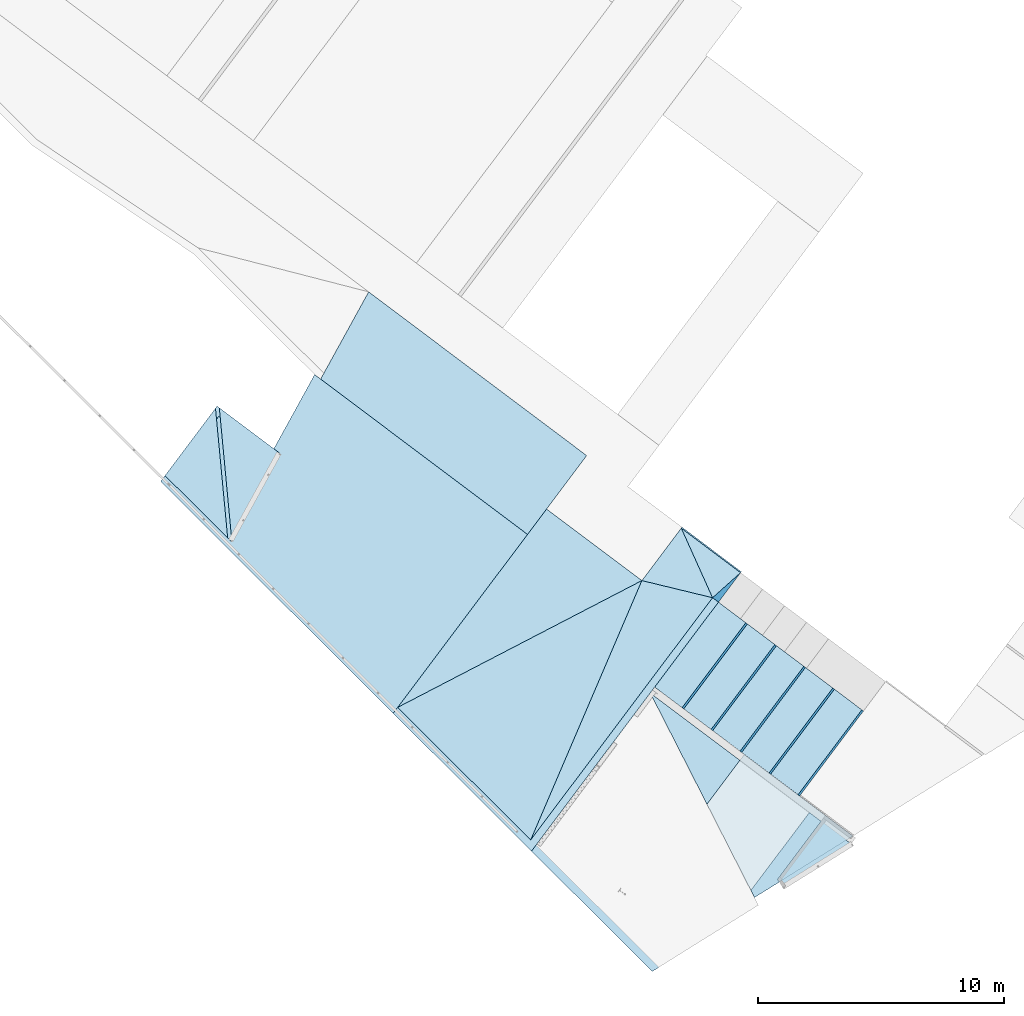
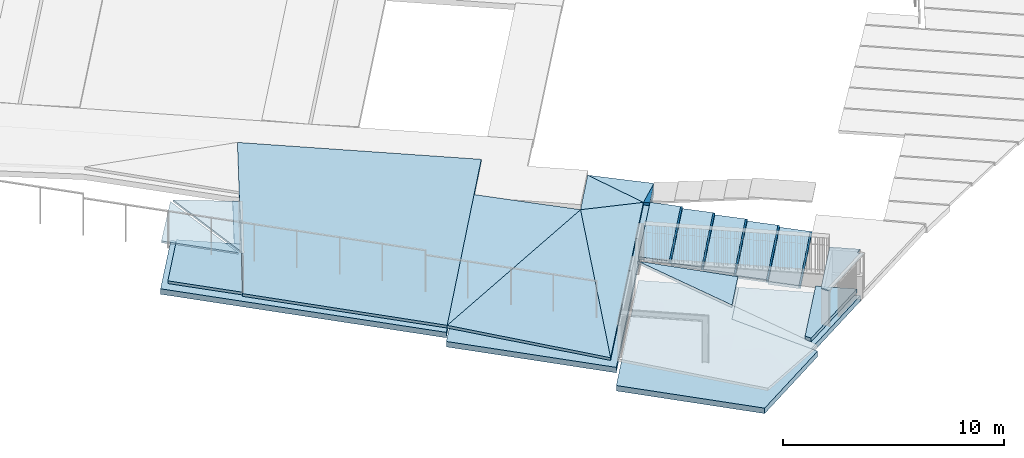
# One storey, part 19 of 33: 27 slabs, 4 elements without a shape of their own.
"""IFC2X3 building model written with IfcOpenShell, lengths in metres."""

from ifc_helpers import new_model, entity, si_unit, converted_unit, derived_unit, direction, frame, frame_2d, origin, place, context, subcontext, project, spatial, polyline, rectangle, outline, extrude, clip, halfspace, material, layer, layer_set, layer_usage, type_object, element, aggregate, save


model = new_model("IFC2X3")

# Units and contexts
model_context = context("Model", 3, precision=1e-05, world=origin(), true_north=direction((6.123031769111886e-17, 1.0)))
body_context = subcontext(model_context, "Body", "Model", "MODEL_VIEW")
ifc_project = project(units=[si_unit("LENGTHUNIT", "METRE"), si_unit("AREAUNIT", "SQUARE_METRE"), si_unit("VOLUMEUNIT", "CUBIC_METRE"), converted_unit("PLANEANGLEUNIT", "DEGREE", entity("IfcRatioMeasure", 0.017453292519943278), si_unit("PLANEANGLEUNIT", "RADIAN"), dimensions=[0, 0, 0, 0, 0, 0, 0]), si_unit("MASSUNIT", "GRAM", prefix="KILO"), derived_unit("MASSDENSITYUNIT", [(si_unit("MASSUNIT", "GRAM", prefix="KILO"), 1), (si_unit("LENGTHUNIT", "METRE"), -3)]), derived_unit("IONCONCENTRATIONUNIT", [(si_unit("MASSUNIT", "GRAM", prefix="KILO"), 1), (si_unit("LENGTHUNIT", "METRE"), -3)]), derived_unit("MOMENTOFINERTIAUNIT", [(si_unit("LENGTHUNIT", "METRE"), 4)]), si_unit("TIMEUNIT", "SECOND"), si_unit("FREQUENCYUNIT", "HERTZ"), si_unit("THERMODYNAMICTEMPERATUREUNIT", "DEGREE_CELSIUS"), derived_unit("THERMALTRANSMITTANCEUNIT", [(si_unit("MASSUNIT", "GRAM", prefix="KILO"), 1), (si_unit("THERMODYNAMICTEMPERATUREUNIT", "KELVIN"), -1), (si_unit("TIMEUNIT", "SECOND"), -3)]), derived_unit("THERMALCONDUCTANCEUNIT", [(si_unit("MASSUNIT", "GRAM", prefix="KILO"), 1), (si_unit("THERMODYNAMICTEMPERATUREUNIT", "KELVIN"), -1), (si_unit("TIMEUNIT", "SECOND"), -3), (si_unit("LENGTHUNIT", "METRE"), 1)]), derived_unit("VOLUMETRICFLOWRATEUNIT", [(si_unit("LENGTHUNIT", "METRE"), 3), (si_unit("TIMEUNIT", "SECOND"), -1)]), derived_unit("MASSFLOWRATEUNIT", [(si_unit("MASSUNIT", "GRAM", prefix="KILO"), 1), (si_unit("TIMEUNIT", "SECOND"), -1)]), derived_unit("ROTATIONALFREQUENCYUNIT", [(si_unit("TIMEUNIT", "SECOND"), -1)]), si_unit("ELECTRICCURRENTUNIT", "AMPERE"), si_unit("ELECTRICVOLTAGEUNIT", "VOLT"), si_unit("POWERUNIT", "WATT"), si_unit("FORCEUNIT", "NEWTON", prefix="KILO"), si_unit("ILLUMINANCEUNIT", "LUX"), si_unit("LUMINOUSFLUXUNIT", "LUMEN"), si_unit("LUMINOUSINTENSITYUNIT", "CANDELA"), derived_unit("USERDEFINED", [(si_unit("MASSUNIT", "GRAM", prefix="KILO"), -1), (si_unit("LENGTHUNIT", "METRE"), -2), (si_unit("TIMEUNIT", "SECOND"), 3), (si_unit("LUMINOUSFLUXUNIT", "LUMEN"), 1)]), derived_unit("USERDEFINED", [(si_unit("MASSUNIT", "GRAM", prefix="KILO"), 1), (si_unit("TIMEUNIT", "SECOND"), -3), (si_unit("LENGTHUNIT", "METRE"), 3), (si_unit("ELECTRICCURRENTUNIT", "AMPERE"), -2)]), derived_unit("SOUNDPOWERUNIT", [(si_unit("MASSUNIT", "GRAM", prefix="KILO"), 1), (si_unit("TIMEUNIT", "SECOND"), -3), (si_unit("LENGTHUNIT", "METRE"), 2)]), derived_unit("SOUNDPRESSUREUNIT", [(si_unit("MASSUNIT", "GRAM", prefix="KILO"), 1), (si_unit("LENGTHUNIT", "METRE"), -1), (si_unit("TIMEUNIT", "SECOND"), -2)]), derived_unit("LINEARVELOCITYUNIT", [(si_unit("LENGTHUNIT", "METRE"), 1), (si_unit("TIMEUNIT", "SECOND"), -1)]), si_unit("PRESSUREUNIT", "PASCAL"), derived_unit("USERDEFINED", [(si_unit("MASSUNIT", "GRAM", prefix="KILO"), 1), (si_unit("LENGTHUNIT", "METRE"), -2), (si_unit("TIMEUNIT", "SECOND"), -2)]), derived_unit("LINEARFORCEUNIT", [(si_unit("MASSUNIT", "GRAM", prefix="KILO"), 1), (si_unit("TIMEUNIT", "SECOND"), -2)]), derived_unit("PLANARFORCEUNIT", [(si_unit("MASSUNIT", "GRAM", prefix="KILO"), 1), (si_unit("LENGTHUNIT", "METRE"), -1), (si_unit("TIMEUNIT", "SECOND"), -2)]), derived_unit("SPECIFICHEATCAPACITYUNIT", [(si_unit("THERMODYNAMICTEMPERATUREUNIT", "KELVIN"), -1), (si_unit("LENGTHUNIT", "METRE"), 2), (si_unit("TIMEUNIT", "SECOND"), -2)]), derived_unit("HEATINGVALUEUNIT", [(si_unit("LENGTHUNIT", "METRE"), 2), (si_unit("TIMEUNIT", "SECOND"), -2)]), derived_unit("VAPORPERMEABILITYUNIT", [(si_unit("LENGTHUNIT", "METRE"), -1), (si_unit("TIMEUNIT", "SECOND"), 1)]), derived_unit("DYNAMICVISCOSITYUNIT", [(si_unit("MASSUNIT", "GRAM", prefix="KILO"), 1), (si_unit("TIMEUNIT", "SECOND"), -1), (si_unit("LENGTHUNIT", "METRE"), -1)]), derived_unit("THERMALEXPANSIONCOEFFICIENTUNIT", [(si_unit("THERMODYNAMICTEMPERATUREUNIT", "KELVIN"), -1)]), derived_unit("MODULUSOFELASTICITYUNIT", [(si_unit("MASSUNIT", "GRAM", prefix="KILO"), 1), (si_unit("LENGTHUNIT", "METRE"), -1), (si_unit("TIMEUNIT", "SECOND"), -2)]), derived_unit("ISOTHERMALMOISTURECAPACITYUNIT", [(si_unit("LENGTHUNIT", "METRE"), 3), (si_unit("MASSUNIT", "GRAM", prefix="KILO"), -1)]), derived_unit("MOISTUREDIFFUSIVITYUNIT", [(si_unit("TIMEUNIT", "SECOND"), -1), (si_unit("LENGTHUNIT", "METRE"), 2)])], contexts=[model_context])

# Site, building, storey
site_placement = place(None, origin())
site = spatial("IfcSite", under=ifc_project, at=site_placement, Name="Superficie", CompositionType="ELEMENT")
building_placement = place(site_placement, frame((0.0, 0.0, 235.0), z_axis=(0.0, 0.0, 1.0), x_axis=(-0.7996477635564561, 0.6004693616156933, 0.0)))
building = spatial("IfcBuilding", under=site, at=building_placement, CompositionType="ELEMENT")
storey_placement = place(building_placement, origin())
storey = spatial("IfcBuildingStorey", under=building, at=storey_placement, Name="P0- Escola", CompositionType="ELEMENT", Elevation=0.0)

# Slabs
ifc_material_1 = material(Name="_Topografia- Plataformes")
ifc_layer_1 = layer(ifc_material_1, 0.29999999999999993)
ifc_layer_set_1 = layer_set([ifc_layer_1], Name="Plataforma:300 mm")
ifc_layer_usage_1 = layer_usage(ifc_layer_set_1, "AXIS3", "POSITIVE", 0.0)
slab_type_1 = type_object("IfcSlabType", Name="Plataforma:300 mm", PredefinedType="FLOOR", material=ifc_layer_set_1)
slab_1_placement = place(storey_placement, origin())
element("IfcSlab", 1, at=slab_1_placement, inside=storey, type_object=slab_type_1, material=ifc_layer_usage_1, Name="Plataforma:300 mm", ObjectType="Plataforma:300 mm", PredefinedType="FLOOR", context=body_context, shape_type="SweptSolid", body=[
    extrude(outline(polyline([(-2.744072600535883, -4.240309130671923), (7.655439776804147, -4.240309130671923), (8.760847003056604, 3.6301545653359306), (-5.4640707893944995, 3.6301545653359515), (-5.4640707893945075, 0.6101545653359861), (-2.7440726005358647, 0.6101545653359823), (-2.744072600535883, -4.240309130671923)])), frame((13.855302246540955, -12.57611915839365, -1.2999999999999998), z_axis=(0.0, 0.0, 1.0), x_axis=(0.0, 1.0, 0.0)), (0.0, 0.0, 1.0), 0.2999999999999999),
])
slab_2_placement = place(storey_placement, origin())
element("IfcSlab", 2, at=slab_2_placement, inside=storey, type_object=slab_type_1, material=ifc_layer_usage_1, Name="Plataforma:300 mm", ObjectType="Plataforma:300 mm", PredefinedType="FLOOR", context=body_context, shape_type="SweptSolid", body=[
    extrude(outline(polyline([(1.5932996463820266, -0.4453937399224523), (4.1268821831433, -0.4453937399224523), (4.126882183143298, 4.117606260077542), (-4.223037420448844, 4.117606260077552), (-5.188081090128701, -2.7534734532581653), (-0.4359455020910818, -4.590951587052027), (1.5932996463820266, -0.4453937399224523)])), frame((6.107541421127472, -8.03830957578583, -2.3), z_axis=(0.0, 0.0, 1.0), x_axis=(0.0, -1.0, 0.0)), (0.0, 0.0, 1.0), 0.30000000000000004),
])
slab_3_placement = place(storey_placement, origin())
element("IfcSlab", 3, at=slab_3_placement, inside=storey, type_object=slab_type_1, material=ifc_layer_usage_1, Name="Plataforma:300 mm", ObjectType="Plataforma:300 mm", PredefinedType="FLOOR", context=body_context, shape_type="SweptSolid", body=[
    extrude(outline(polyline([(-1.7354915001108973, -2.341166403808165), (0.7980910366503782, -2.341166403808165), (2.672891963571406, 1.4888763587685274), (-1.7354915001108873, 3.1934564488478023), (-1.7354915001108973, -2.341166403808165)])), frame((3.3209812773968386, -10.429700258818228, -2.3), z_axis=(0.0, 0.0, 1.0), x_axis=(0.0, 1.0, 0.0)), (0.0, 0.0, 1.0), 0.30000000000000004),
])
slab_4_placement = place(storey_placement, origin())
element("IfcSlab", 4, at=slab_4_placement, inside=storey, type_object=slab_type_1, material=ifc_layer_usage_1, Name="Plataforma:300 mm", ObjectType="Plataforma:300 mm", PredefinedType="FLOOR", context=body_context, shape_type="SweptSolid", body=[
    extrude(outline(polyline([(-4.771737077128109, -4.087468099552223), (8.595939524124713, -4.087468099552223), (7.329425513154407, 4.93007069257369), (-3.401077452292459, 3.4229707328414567), (-2.447421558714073, 0.11162999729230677), (-5.305128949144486, -0.28973522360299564), (-4.771737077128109, -4.087468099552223)])), frame((26.039496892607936, -10.163985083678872, -0.7999999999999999), z_axis=(0.0, 0.0, 1.0), x_axis=(-0.9902804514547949, 0.13908496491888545, 0.0)), (0.0, 0.0, 1.0), 0.29999999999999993),
])
ifc_material_2 = material(Name="_Formigó- Solera- T1- STR")
ifc_layer_2 = layer(ifc_material_2, 0.14999999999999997)
ifc_layer_set_2 = layer_set([ifc_layer_2], Name="Suelo:STR- L- Formigó- Solera- T1- 15 cm")
ifc_layer_usage_2 = layer_usage(ifc_layer_set_2, "AXIS3", "POSITIVE", 0.0)
slab_type_2 = type_object("IfcSlabType", Name="Suelo:STR- L- Formigó- Solera- T1- 15 cm", PredefinedType="FLOOR", material=ifc_layer_set_2)
slab_5_placement = place(storey_placement, origin())
element("IfcSlab", 5, at=slab_5_placement, inside=storey, type_object=slab_type_2, material=ifc_layer_usage_2, Name="Suelo:STR- L- Formigó- Solera- T1- 15 cm", ObjectType="Suelo:STR- L- Formigó- Solera- T1- 15 cm", PredefinedType="FLOOR", context=body_context, shape_type="SweptSolid", body=[
    clip(clip(extrude(rectangle(XDim=0.08025559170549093, YDim=4.325, at=frame_2d((6.661338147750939e-15, 2.7096380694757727e-15), x_axis=(0.0, 1.0))), frame((2.885147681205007, -14.32769175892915, -1.6947999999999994), z_axis=(0.07974522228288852, 0.0, -0.9968152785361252), x_axis=(0.0, 1.0, 0.0)), (0.0, -0.07974522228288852, 0.9968152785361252), 0.15095999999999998), halfspace(frame((2.8451476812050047, -16.490191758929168, -1.8484792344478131), z_axis=(0.07974522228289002, 0.0, -0.9968152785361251), x_axis=(-0.9968152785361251, 0.0, -0.07974522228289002)), False)), halfspace(frame((2.8451476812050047, -16.490191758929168, -1.6979999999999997), z_axis=(-0.07974522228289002, 0.0, 0.9968152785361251), x_axis=(0.9968152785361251, 0.0, 0.07974522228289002)), False)),
])
slab_6_placement = place(storey_placement, origin())
element("IfcSlab", 6, at=slab_6_placement, inside=storey, type_object=slab_type_2, material=ifc_layer_usage_2, Name="Suelo:STR- L- Formigó- Solera- T1- 15 cm", ObjectType="Suelo:STR- L- Formigó- Solera- T1- 15 cm", PredefinedType="FLOOR", context=body_context, shape_type="SweptSolid", body=[
    clip(clip(extrude(rectangle(XDim=0.08025559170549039, YDim=4.325000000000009, at=frame_2d((0.0, 2.706168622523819e-16), x_axis=(0.0, 1.0))), frame((4.36114768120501, -14.327691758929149, -1.4747199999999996), z_axis=(0.07974522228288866, 0.0, -0.9968152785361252), x_axis=(0.0, 1.0, 0.0)), (0.0, -0.07974522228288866, 0.9968152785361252), 0.15095999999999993), halfspace(frame((4.321147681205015, -16.490191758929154, -1.6283992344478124), z_axis=(0.07974522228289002, 0.0, -0.9968152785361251), x_axis=(-0.9968152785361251, 0.0, -0.07974522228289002)), False)), halfspace(frame((4.321147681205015, -16.490191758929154, -1.4779199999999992), z_axis=(-0.07974522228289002, 0.0, 0.9968152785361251), x_axis=(0.9968152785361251, 0.0, 0.07974522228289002)), False)),
])
slab_7_placement = place(storey_placement, origin())
element("IfcSlab", 7, at=slab_7_placement, inside=storey, type_object=slab_type_2, material=ifc_layer_usage_2, Name="Suelo:STR- L- Formigó- Solera- T1- 15 cm", ObjectType="Suelo:STR- L- Formigó- Solera- T1- 15 cm", PredefinedType="FLOOR", context=body_context, shape_type="SweptSolid", body=[
    clip(clip(extrude(rectangle(XDim=0.08025559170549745, YDim=4.325000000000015, at=frame_2d((8.881784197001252e-16, 1.078998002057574e-15), x_axis=(0.0, 1.0))), frame((5.837147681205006, -14.327691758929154, -1.2546399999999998), z_axis=(0.07974522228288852, 0.0, -0.9968152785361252), x_axis=(0.0, 1.0, 0.0)), (0.0, -0.07974522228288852, 0.9968152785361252), 0.15096000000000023), halfspace(frame((5.797147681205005, -16.49019175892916, -1.4083192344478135), z_axis=(0.07974522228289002, 0.0, -0.9968152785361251), x_axis=(-0.9968152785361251, 0.0, -0.07974522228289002)), False)), halfspace(frame((5.797147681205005, -16.49019175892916, -1.2578399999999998), z_axis=(-0.07974522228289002, 0.0, 0.9968152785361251), x_axis=(0.9968152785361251, 0.0, 0.07974522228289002)), False)),
])
slab_8_placement = place(storey_placement, origin())
element("IfcSlab", 8, at=slab_8_placement, inside=storey, type_object=slab_type_2, material=ifc_layer_usage_2, Name="Suelo:STR- L- Formigó- Solera- T1- 15 cm", ObjectType="Suelo:STR- L- Formigó- Solera- T1- 15 cm", PredefinedType="FLOOR", context=body_context, shape_type="SweptSolid", body=[
    clip(clip(extrude(rectangle(XDim=0.08025559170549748, YDim=4.325000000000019, at=frame_2d((1.1102230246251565e-15, 0.0), x_axis=(0.0, 1.0))), frame((7.313147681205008, -14.327691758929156, -1.03456), z_axis=(0.07974522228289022, 0.0, -0.9968152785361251), x_axis=(0.0, 1.0, 0.0)), (0.0, -0.07974522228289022, 0.9968152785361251), 0.15096), halfspace(frame((7.273147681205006, -16.490191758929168, -1.1882392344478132), z_axis=(0.07974522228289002, 0.0, -0.9968152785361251), x_axis=(-0.9968152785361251, 0.0, -0.07974522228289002)), False)), halfspace(frame((7.273147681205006, -16.490191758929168, -1.0377599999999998), z_axis=(-0.07974522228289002, 0.0, 0.9968152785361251), x_axis=(0.9968152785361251, 0.0, 0.07974522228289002)), False)),
])
slab_9_placement = place(storey_placement, origin())
element("IfcSlab", 9, at=slab_9_placement, inside=storey, type_object=slab_type_2, material=ifc_layer_usage_2, Name="Suelo:STR- L- Formigó- Solera- T1- 15 cm", ObjectType="Suelo:STR- L- Formigó- Solera- T1- 15 cm", PredefinedType="FLOOR", context=body_context, shape_type="SweptSolid", body=[
    clip(clip(extrude(rectangle(XDim=0.08025559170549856, YDim=4.325000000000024, at=frame_2d((1.1102230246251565e-15, 5.412337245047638e-16), x_axis=(0.0, 1.0))), frame((8.789147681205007, -14.327691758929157, -0.8144800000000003), z_axis=(0.07974522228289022, 0.0, -0.9968152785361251), x_axis=(0.0, 1.0, 0.0)), (0.0, -0.07974522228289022, 0.9968152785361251), 0.15096000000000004), halfspace(frame((8.749147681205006, -16.490191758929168, -0.9681592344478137), z_axis=(0.07974522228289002, 0.0, -0.9968152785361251), x_axis=(-0.9968152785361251, 0.0, -0.07974522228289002)), False)), halfspace(frame((8.749147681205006, -16.490191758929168, -0.8176800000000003), z_axis=(-0.07974522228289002, 0.0, 0.9968152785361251), x_axis=(0.9968152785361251, 0.0, 0.07974522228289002)), False)),
])
slab_10_placement = place(storey_placement, origin())
element("IfcSlab", 10, at=slab_10_placement, inside=storey, type_object=slab_type_2, material=ifc_layer_usage_2, Name="Suelo:STR- L- Formigó- Solera- T1- 15 cm", ObjectType="Suelo:STR- L- Formigó- Solera- T1- 15 cm", PredefinedType="FLOOR", context=body_context, shape_type="SweptSolid", body=[
    clip(clip(extrude(outline(polyline([(-0.7434800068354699, -1.529219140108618), (1.4901529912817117, -1.5292191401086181), (-0.7466729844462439, 3.058438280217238), (-0.7434800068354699, -1.529219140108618)])), frame((7.183147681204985, -11.120664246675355, -1.0516831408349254), z_axis=(0.1035401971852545, -0.00668567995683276, -0.9946027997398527), x_axis=(0.0, 0.9999774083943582, -0.006721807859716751)), (0.006721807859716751, -0.10353785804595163, 0.9946027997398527), 0.1508139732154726), halfspace(frame((7.183147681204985, -11.120664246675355, -1.2016831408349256), z_axis=(0.10354019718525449, -0.006685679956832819, -0.9946027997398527), x_axis=(0.0, -0.9999774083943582, 0.0067218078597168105)), False)), halfspace(frame((7.183147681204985, -11.120664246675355, -1.0516831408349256), z_axis=(-0.10354019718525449, 0.006685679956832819, 0.9946027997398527), x_axis=(0.0, -0.9999774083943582, 0.0067218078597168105)), False)),
])
slab_11_placement = place(storey_placement, origin())
element("IfcSlab", 11, at=slab_11_placement, inside=storey, type_object=slab_type_2, material=ifc_layer_usage_2, Name="Suelo:STR- L- Formigó- Solera- T1- 15 cm", ObjectType="Suelo:STR- L- Formigó- Solera- T1- 15 cm", PredefinedType="FLOOR", context=body_context, shape_type="SweptSolid", body=[
    extrude(outline(polyline([(-1.5989874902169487, -1.758729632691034), (1.3323239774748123, -1.758729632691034), (1.8656510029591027, 2.0020340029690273), (-1.5989874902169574, 1.515425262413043), (-1.5989874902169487, -1.758729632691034)])), frame((29.434372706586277, -8.560503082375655, -0.22060427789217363), z_axis=(0.0, 0.0, -1.0), x_axis=(-1.0, 0.0, 0.0)), (0.0, 0.0, 1.0), 0.14999999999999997),
])
ifc_layer_3 = layer(ifc_material_2, 0.2)
ifc_layer_set_3 = layer_set([ifc_layer_3], Name="Suelo:STR- L- Formigó- Solera- T1- 20 cm")
ifc_layer_usage_3 = layer_usage(ifc_layer_set_3, "AXIS3", "POSITIVE", 0.0)
slab_type_3 = type_object("IfcSlabType", Name="Suelo:STR- L- Formigó- Solera- T1- 20 cm", PredefinedType="FLOOR", material=ifc_layer_set_3)
slab_12_placement = place(storey_placement, origin())
element("IfcSlab", 12, at=slab_12_placement, inside=storey, type_object=slab_type_3, material=ifc_layer_usage_3, Name="Suelo:STR- L- Formigó- Solera- T1- 20 cm", ObjectType="Suelo:STR- L- Formigó- Solera- T1- 20 cm", PredefinedType="FLOOR", context=body_context, shape_type="SweptSolid", body=[
    extrude(outline(polyline([(-0.5435675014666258, -2.0183549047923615), (1.3378573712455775, -2.0183549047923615), (-0.25072236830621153, 2.090028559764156), (-0.5435675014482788, 1.9466812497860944), (-0.5435675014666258, -2.0183549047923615)])), frame((1.5813825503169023, -9.846836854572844, -1.425000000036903), z_axis=(0.0, -2.0787634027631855e-05, -1.0), x_axis=(-1.0, 0.0, 0.0)), (0.0, 2.0787634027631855e-05, 1.0), 0.20000000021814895),
])
ifc_material_3 = material(Name="_Saulo T1- PAV")
ifc_layer_4 = layer(ifc_material_3, 0.14999999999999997)
ifc_layer_set_4 = layer_set([ifc_layer_4], Name="Suelo:PAV- Saulo- 15 cm- T1")
ifc_layer_usage_4 = layer_usage(ifc_layer_set_4, "AXIS3", "POSITIVE", 0.0)
slab_type_4 = type_object("IfcSlabType", Name="Suelo:PAV- Saulo- 15 cm- T1", PredefinedType="FLOOR", material=ifc_layer_set_4)
slab_13_placement = place(storey_placement, origin())
element("IfcSlab", 13, at=slab_13_placement, inside=storey, type_object=slab_type_4, material=ifc_layer_usage_4, Name="Suelo:PAV- Saulo- 15 cm- T1", ObjectType="Suelo:PAV- Saulo- 15 cm- T1", PredefinedType="FLOOR", context=body_context, shape_type="SweptSolid", body=[
    clip(clip(extrude(rectangle(XDim=1.4004600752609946, YDim=4.325000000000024, at=frame_2d((-5.329070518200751e-15, -2.4424906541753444e-15), x_axis=(0.0, 1.0))), frame((3.623147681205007, -14.32769175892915, -1.6357599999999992), z_axis=(0.07974522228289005, 0.0, -0.9968152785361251), x_axis=(0.0, 1.0, 0.0)), (0.0, -0.07974522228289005, 0.9968152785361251), 0.15095999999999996), halfspace(frame((4.321147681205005, -16.490191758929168, -1.7303992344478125), z_axis=(0.07974522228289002, 0.0, -0.9968152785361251), x_axis=(0.9968152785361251, 0.0, 0.07974522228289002)), False)), halfspace(frame((4.321147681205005, -16.490191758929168, -1.5799199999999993), z_axis=(-0.07974522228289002, 0.0, 0.9968152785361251), x_axis=(-0.9968152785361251, 0.0, -0.07974522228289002)), False)),
])
slab_14_placement = place(storey_placement, origin())
element("IfcSlab", 14, at=slab_14_placement, inside=storey, type_object=slab_type_4, material=ifc_layer_usage_4, Name="Suelo:PAV- Saulo- 15 cm- T1", ObjectType="Suelo:PAV- Saulo- 15 cm- T1", PredefinedType="FLOOR", context=body_context, shape_type="SweptSolid", body=[
    clip(clip(extrude(rectangle(XDim=1.400460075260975, YDim=4.325000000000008, at=frame_2d((4.218847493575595e-15, 1.609823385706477e-15), x_axis=(0.0, 1.0))), frame((5.099147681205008, -14.327691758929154, -1.4156799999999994), z_axis=(0.07974522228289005, 0.0, -0.9968152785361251), x_axis=(0.0, 1.0, 0.0)), (0.0, -0.07974522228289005, 0.9968152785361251), 0.15095999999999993), halfspace(frame((4.401147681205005, -16.490191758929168, -1.6219992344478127), z_axis=(0.07974522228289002, 0.0, -0.9968152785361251), x_axis=(-0.9968152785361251, 0.0, -0.07974522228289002)), False)), halfspace(frame((4.401147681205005, -16.490191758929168, -1.4715199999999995), z_axis=(-0.07974522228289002, 0.0, 0.9968152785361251), x_axis=(0.9968152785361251, 0.0, 0.07974522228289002)), False)),
])
slab_15_placement = place(storey_placement, origin())
element("IfcSlab", 15, at=slab_15_placement, inside=storey, type_object=slab_type_4, material=ifc_layer_usage_4, Name="Suelo:PAV- Saulo- 15 cm- T1", ObjectType="Suelo:PAV- Saulo- 15 cm- T1", PredefinedType="FLOOR", context=body_context, shape_type="SweptSolid", body=[
    clip(clip(extrude(rectangle(XDim=1.4004600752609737, YDim=4.325000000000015, at=frame_2d((3.3306690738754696e-15, 2.1649348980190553e-15), x_axis=(0.0, 1.0))), frame((6.575147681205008, -14.327691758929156, -1.1955999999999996), z_axis=(0.07974522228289, 0.0, -0.9968152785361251), x_axis=(0.0, 1.0, 0.0)), (0.0, -0.07974522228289, 0.9968152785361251), 0.15096000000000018), halfspace(frame((5.877147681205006, -16.490191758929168, -1.4019192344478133), z_axis=(0.07974522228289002, 0.0, -0.9968152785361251), x_axis=(-0.9968152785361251, 0.0, -0.07974522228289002)), False)), halfspace(frame((5.877147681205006, -16.490191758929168, -1.2514399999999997), z_axis=(-0.07974522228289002, 0.0, 0.9968152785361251), x_axis=(0.9968152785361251, 0.0, 0.07974522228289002)), False)),
])
slab_16_placement = place(storey_placement, origin())
element("IfcSlab", 16, at=slab_16_placement, inside=storey, type_object=slab_type_4, material=ifc_layer_usage_4, Name="Suelo:PAV- Saulo- 15 cm- T1", ObjectType="Suelo:PAV- Saulo- 15 cm- T1", PredefinedType="FLOOR", context=body_context, shape_type="SweptSolid", body=[
    clip(clip(extrude(rectangle(XDim=1.4004600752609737, YDim=4.32500000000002, at=frame_2d((1.1102230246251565e-15, 2.1649348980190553e-15), x_axis=(0.0, 1.0))), frame((8.05114768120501, -14.327691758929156, -0.9755199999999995), z_axis=(0.07974522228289, 0.0, -0.9968152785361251), x_axis=(0.0, 1.0, 0.0)), (0.0, -0.07974522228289, 0.9968152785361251), 0.15096000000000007), halfspace(frame((7.353147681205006, -16.490191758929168, -1.181839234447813), z_axis=(0.07974522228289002, 0.0, -0.9968152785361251), x_axis=(-0.9968152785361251, 0.0, -0.07974522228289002)), False)), halfspace(frame((7.353147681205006, -16.490191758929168, -1.0313599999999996), z_axis=(-0.07974522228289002, 0.0, 0.9968152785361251), x_axis=(0.9968152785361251, 0.0, 0.07974522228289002)), False)),
])
slab_17_placement = place(storey_placement, origin())
element("IfcSlab", 17, at=slab_17_placement, inside=storey, type_object=slab_type_4, material=ifc_layer_usage_4, Name="Suelo:PAV- Saulo- 15 cm- T1", ObjectType="Suelo:PAV- Saulo- 15 cm- T1", PredefinedType="FLOOR", context=body_context, shape_type="SweptSolid", body=[
    clip(clip(extrude(rectangle(XDim=1.4004600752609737, YDim=4.325000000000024, at=frame_2d((8.881784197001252e-16, 2.1649348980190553e-15), x_axis=(0.0, 1.0))), frame((9.527147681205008, -14.327691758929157, -0.7554399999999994), z_axis=(0.07974522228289, 0.0, -0.9968152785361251), x_axis=(0.0, 1.0, 0.0)), (0.0, -0.07974522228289, 0.9968152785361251), 0.15096000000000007), halfspace(frame((8.829147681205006, -16.490191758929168, -0.961759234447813), z_axis=(0.07974522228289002, 0.0, -0.9968152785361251), x_axis=(-0.9968152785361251, 0.0, -0.07974522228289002)), False)), halfspace(frame((8.829147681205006, -16.490191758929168, -0.8112799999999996), z_axis=(-0.07974522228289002, 0.0, 0.9968152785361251), x_axis=(0.9968152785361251, 0.0, 0.07974522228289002)), False)),
])
slab_18_placement = place(storey_placement, origin())
element("IfcSlab", 18, at=slab_18_placement, inside=storey, type_object=slab_type_4, material=ifc_layer_usage_4, Name="Suelo:PAV- Saulo- 15 cm- T1", ObjectType="Suelo:PAV- Saulo- 15 cm- T1", PredefinedType="FLOOR", context=body_context, shape_type="SweptSolid", body=[
    clip(clip(extrude(outline(polyline([(-6.0768314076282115, -5.14400381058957), (6.742239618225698, -5.144003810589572), (5.411423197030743, 4.329563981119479), (-6.076831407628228, 5.958443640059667), (-6.0768314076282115, -5.14400381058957)])), frame((23.23915149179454, -11.964516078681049, -0.1885115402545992), z_axis=(0.0, -0.01950219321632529, -0.9998098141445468), x_axis=(0.0, 0.9998098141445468, -0.01950219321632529)), (0.01950219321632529, 0.0, 0.9998098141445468), 0.1500570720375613), halfspace(frame((18.09514768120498, -5.223558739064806, -0.470028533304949), z_axis=(0.0, -0.019502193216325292, -0.9998098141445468), x_axis=(0.0, -0.9998098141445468, 0.019502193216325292)), False)), halfspace(frame((18.09514768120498, -5.223558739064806, -0.32), z_axis=(0.0, 0.019502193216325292, 0.9998098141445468), x_axis=(0.0, 0.9998098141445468, -0.019502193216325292)), False)),
])

slab_19_placement = place(storey_placement, frame((10.225147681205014, -17.990191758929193, -0.88)))
slab_19 = element("IfcSlab", 19, at=slab_19_placement, inside=storey, Name="Suelo:PAV- Saulo- 15 cm- T1", ObjectType="Suelo:PAV- Saulo- 15 cm- T1", PredefinedType="NOTDEFINED")
slab_20_placement = place(slab_19_placement, origin())
slab_20 = element("IfcSlab", 20, at=slab_20_placement, type_object=slab_type_4, material=ifc_layer_set_4, Name="Suelo:PAV- Saulo- 15 cm- T1", ObjectType="Suelo:PAV- Saulo- 15 cm- T1", PredefinedType="FLOOR", context=body_context, shape_type="SweptSolid", body=[
    extrude(outline(polyline([(-1.514951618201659, -0.7470880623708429), (1.5116563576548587, -0.7537333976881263), (-1.2142951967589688, 0.7530805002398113), (-1.514951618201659, -0.7470880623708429)])), frame((1.511644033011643, 0.7500000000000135, 0.2551751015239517), z_axis=(-0.06604408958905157, 0.03315413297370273, 0.997265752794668), x_axis=(0.9978167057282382, 0.0021944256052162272, 0.06600762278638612)), (-0.06600762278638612, 0.03322667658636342, -0.997265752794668), 0.15000000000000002),
])
slab_21_placement = place(slab_19_placement, origin())
slab_21 = element("IfcSlab", 21, at=slab_21_placement, type_object=slab_type_4, material=ifc_layer_set_4, Name="Suelo:PAV- Saulo- 15 cm- T1", ObjectType="Suelo:PAV- Saulo- 15 cm- T1", PredefinedType="FLOOR", context=body_context, shape_type="SweptSolid", body=[
    extrude(outline(polyline([(-0.005767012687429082, -0.7789908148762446), (0.29423298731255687, 0.7213091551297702), (-0.005767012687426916, 0.7213091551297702), (-0.005767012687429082, -0.7789908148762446)])), frame((0.005767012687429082, 0.7788350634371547, 0.16442329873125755), z_axis=(0.0, 0.019996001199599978, 0.999800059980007), x_axis=(1.0, 0.0, 0.0)), (0.0, 0.019996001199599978, -0.999800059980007), 0.15000000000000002),
])
slab_22_placement = place(slab_19_placement, origin())
slab_22 = element("IfcSlab", 22, at=slab_22_placement, type_object=slab_type_4, material=ifc_layer_set_4, Name="Suelo:PAV- Saulo- 15 cm- T1", ObjectType="Suelo:PAV- Saulo- 15 cm- T1", PredefinedType="FLOOR", context=body_context, shape_type="SweptSolid", body=[
    extrude(outline(polyline([(1.3637405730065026, -1.3352340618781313), (1.363740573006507, 1.3352340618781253), (-1.363740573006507, 0.16880935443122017), (1.3637405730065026, -1.3352340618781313)])), frame((1.6599999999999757, 1.333110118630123, 0.25408033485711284), z_axis=(-0.07401507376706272, 0.0186719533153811, 0.9970823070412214), x_axis=(0.9972571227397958, 0.001385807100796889, 0.07400209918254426)), (-0.07400209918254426, 0.01872330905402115, -0.9970823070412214), 0.15000000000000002),
])
slab_23_placement = place(slab_19_placement, origin())
slab_23 = element("IfcSlab", 23, at=slab_23_placement, type_object=slab_type_4, material=ifc_layer_set_4, Name="Suelo:PAV- Saulo- 15 cm- T1", ObjectType="Suelo:PAV- Saulo- 15 cm- T1", PredefinedType="FLOOR", context=body_context, shape_type="SweptSolid", body=[
    extrude(outline(polyline([(-1.3629746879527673, 6.165700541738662), (-1.3629746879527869, -6.165700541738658), (1.3629746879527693, -4.99570054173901), (-1.3629746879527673, 6.165700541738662)])), frame((1.6599999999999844, 7.665700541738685, 0.24000000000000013), z_axis=(-0.06603204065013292, 0.0, 0.997817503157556), x_axis=(0.997817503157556, 0.0, 0.06603204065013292)), (-0.06603204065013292, 0.0, -0.997817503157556), 0.15000000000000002),
])
slab_24_placement = place(slab_19_placement, origin())
slab_24 = element("IfcSlab", 24, at=slab_24_placement, type_object=slab_type_4, material=ifc_layer_set_4, Name="Suelo:PAV- Saulo- 15 cm- T1", ObjectType="Suelo:PAV- Saulo- 15 cm- T1", PredefinedType="FLOOR", context=body_context, shape_type="SweptSolid", body=[
    extrude(outline(polyline([(-4.816921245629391, 4.73780744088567), (-2.0929978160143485, -6.424088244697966), (2.764462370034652, 3.6726095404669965), (-4.816921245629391, 4.73780744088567)])), frame((5.109983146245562, 9.094399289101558, 0.4228108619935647), z_axis=(-0.05365300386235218, 0.0030286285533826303, 0.998555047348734), x_axis=(0.9985596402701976, 0.00016272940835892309, 0.05365275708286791)), (-0.05365275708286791, 0.0030329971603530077, -0.998555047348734), 0.15000000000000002),
])
slab_25_placement = place(slab_19_placement, origin())
slab_25 = element("IfcSlab", 25, at=slab_25_placement, type_object=slab_type_4, material=ifc_layer_set_4, Name="Suelo:PAV- Saulo- 15 cm- T1", ObjectType="Suelo:PAV- Saulo- 15 cm- T1", PredefinedType="FLOOR", context=body_context, shape_type="SweptSolid", body=[
    extrude(outline(polyline([(-2.4432414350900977, -5.045503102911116), (2.42597033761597, -5.053830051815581), (2.4259703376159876, 5.045532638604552), (-2.4432414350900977, -5.045503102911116)])), frame((5.45383414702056, 7.718720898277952, 0.4457536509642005), z_axis=(-0.087668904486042, 0.01942780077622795, 0.9959602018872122), x_axis=(0.9961496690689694, 0.0017097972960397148, 0.0876522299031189)), (-0.0876522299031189, 0.019502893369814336, -0.9959602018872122), 0.15000000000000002),
])
aggregate(slab_19, [slab_20, slab_21, slab_22, slab_23, slab_24, slab_25])

# Roof, slab
ifc_material_4 = material(Name="_REV- Xapa minionda")
ifc_layer_5 = layer(ifc_material_4, 0.01)
ifc_material_5 = material(Name="_Genèric perfils, muntants, rastrells")
ifc_layer_6 = layer(ifc_material_5, 0.01)
ifc_material_6 = material(Name="_Aillament")
ifc_layer_7 = layer(ifc_material_6, 0.04)
ifc_layer_set_5 = layer_set([ifc_layer_5, ifc_layer_6, ifc_layer_7], Name="Cubierta básica:COB- Coberta Xapa Exterior")
roof_1_placement = place(storey_placement, frame((-0.051297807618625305, -12.165191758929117, 0.5150000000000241)))
roof_1 = element("IfcRoof", 26, at=roof_1_placement, inside=storey, material=ifc_layer_set_5, Name="Cubierta básica:COB- Coberta Xapa Exterior", ObjectType="Cubierta básica:COB- Coberta Xapa Exterior", ShapeType="NOTDEFINED")
slab_type_5 = type_object("IfcSlabType", Name="Cubierta básica:COB- Coberta Xapa Exterior", PredefinedType="ROOF")
slab_26_placement = place(roof_1_placement, origin())
slab_26 = element("IfcSlab", 27, at=slab_26_placement, type_object=slab_type_5, material=ifc_layer_set_5, Name="Cubierta básica:COB- Coberta Xapa Exterior", ObjectType="Cubierta básica:COB- Coberta Xapa Exterior", PredefinedType="ROOF", context=body_context, shape_type="SweptSolid", body=[
    extrude(outline(polyline([(0.7881239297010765, 1.5523554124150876), (0.4095755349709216, 1.6987279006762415), (-0.7881239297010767, -1.3987279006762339), (-0.49341763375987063, -1.3987279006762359), (-0.6094167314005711, -1.698727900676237), (0.788123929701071, -1.6987279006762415), (0.7881239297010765, 1.5523554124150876)])), frame((0.7881239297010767, 1.6987279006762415, 0.0)), (0.0, 0.0, 1.0), 0.06000000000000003),
])
aggregate(roof_1, [slab_26])

ifc_layer_8 = layer(ifc_material_4, 0.01)
ifc_layer_9 = layer(ifc_material_5, 0.01)
ifc_layer_10 = layer(ifc_material_6, 0.08)
ifc_layer_set_6 = layer_set([ifc_layer_8, ifc_layer_9, ifc_layer_10], Name="Cubierta básica:COB- Coberta Xapa 2")
roof_2_placement = place(storey_placement, frame((27.76770837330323, -10.504291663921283, 1.626715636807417)))
roof_2 = element("IfcRoof", 28, at=roof_2_placement, inside=storey, material=ifc_layer_set_6, Name="Cubierta básica:COB- Coberta Xapa 2", ObjectType="Cubierta básica:COB- Coberta Xapa 2", ShapeType="NOTDEFINED")
slab_type_6 = type_object("IfcSlabType", Name="Cubierta básica:COB- Coberta Xapa 2", PredefinedType="ROOF")
slab_27_placement = place(roof_2_placement, origin())
slab_27 = element("IfcSlab", 29, at=slab_27_placement, type_object=slab_type_6, material=ifc_layer_set_6, Name="Cubierta básica:COB- Coberta Xapa 2", ObjectType="Cubierta básica:COB- Coberta Xapa 2", PredefinedType="ROOF", context=body_context, shape_type="SweptSolid", body=[
    extrude(outline(polyline([(1.7831840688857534, 1.4636672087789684), (-1.7831840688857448, 1.96366544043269), (1.7831840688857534, -1.9636654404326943), (1.7831840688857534, 1.4636672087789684)])), frame((1.7831222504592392, 1.9610889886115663, 0.10164843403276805), z_axis=(-0.00832668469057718, -0.05931064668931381, 0.9982048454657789), x_axis=(0.9999653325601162, -0.0004938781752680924, 0.008312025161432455)), (0.008312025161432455, 0.05931270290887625, 0.9982048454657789), 0.10017983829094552),
])
aggregate(roof_2, [slab_27])

roof_3_placement = place(storey_placement, frame((27.59484274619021, -10.614929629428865, 1.6473890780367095)))
roof_3 = element("IfcRoof", 30, at=roof_3_placement, inside=storey, material=ifc_layer_set_6, Name="Cubierta básica:COB- Coberta Xapa 2", ObjectType="Cubierta básica:COB- Coberta Xapa 2", ShapeType="NOTDEFINED")
slab_28_placement = place(roof_3_placement, origin())
slab_28 = element("IfcSlab", 31, at=slab_28_placement, type_object=slab_type_6, material=ifc_layer_set_6, Name="Cubierta básica:COB- Coberta Xapa 2", ObjectType="Cubierta básica:COB- Coberta Xapa 2", PredefinedType="ROOF", context=body_context, shape_type="SweptSolid", body=[
    extrude(outline(polyline([(1.8169906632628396, -1.9941757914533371), (-1.8169906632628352, 1.9941757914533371), (-1.261225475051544, -1.995684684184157), (1.8169906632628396, -1.9941757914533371)])), frame((1.8137908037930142, 1.9949983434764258, 0.09130546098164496), z_axis=(0.05932159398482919, 0.008248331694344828, 0.9982048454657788), x_axis=(0.9982389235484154, -0.0004901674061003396, -0.059319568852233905)), (-0.059319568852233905, -0.008262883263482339, 0.9982048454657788), 0.10017983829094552),
])
aggregate(roof_3, [slab_28])

save(model, "model.ifc")
